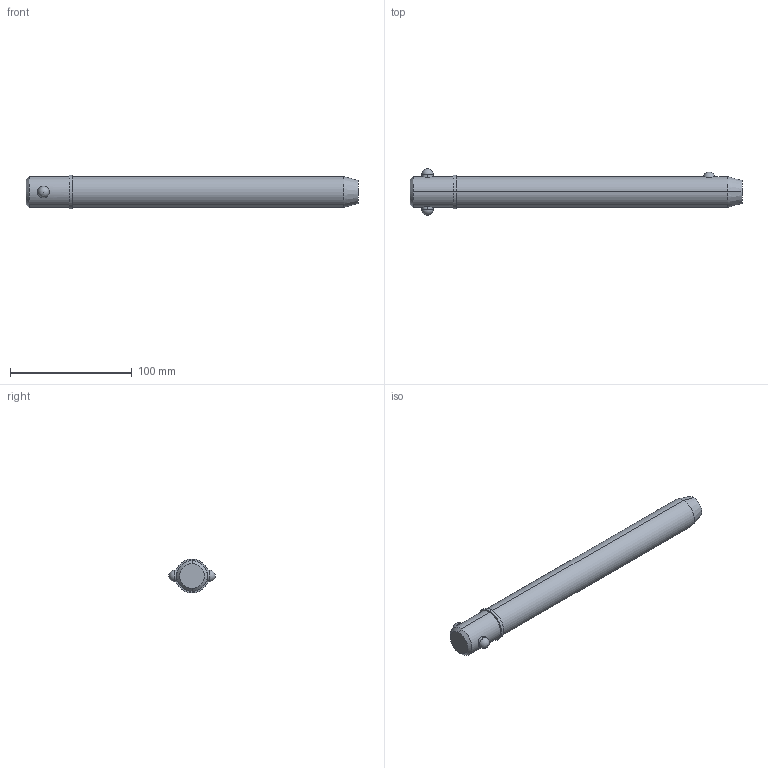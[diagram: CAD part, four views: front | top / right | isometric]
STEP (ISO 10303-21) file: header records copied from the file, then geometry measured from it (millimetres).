
FILE_DESCRIPTION (( 'STEP AP203' ), '1' );
FILE_NAME ('33018.W1080.step', '2024-11-19T17:25:28', ( '' ), ( '' ), 'SwSTEP 2.0', 'SolidWorks 2019', '' );
FILE_SCHEMA (( 'CONFIG_CONTROL_DESIGN' ));
Length unit declared in the file: millimetre
Products named in the file (3): Part2_33018.W1080; Part1_33018.W1080; 33018.W1080
Assembly tree (2 placements, depth 2):
  33018.W1080
    Part1_33018.W1080
    Part2_33018.W1080
Bounding box: 273.05 x 38.1 x 27.94 mm (x, y, z)
Volume: 137881.9 mm3; surface area: 24373.7 mm2
Topology: 2 solids, 2 shells, 22 faces, 47 edges, 30 vertices
Faces by surface type: cylinder 10, sphere 4, cone 4, plane 4
Entity records: 1071 total; most frequent: CARTESIAN_POINT 314, DIRECTION 110, ORIENTED_EDGE 82, AXIS2_PLACEMENT_3D 48, EDGE_CURVE 41, EDGE_LOOP 27, PERSON_AND_ORGANIZATION 26, VERTEX_POINT 26
